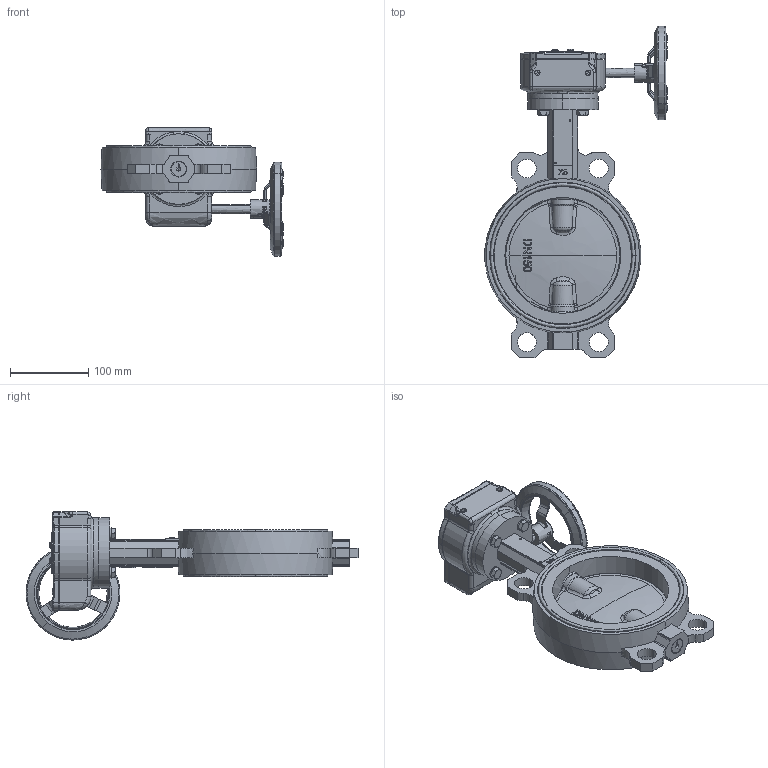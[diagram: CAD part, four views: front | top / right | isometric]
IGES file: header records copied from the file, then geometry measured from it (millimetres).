
Start section: SolidWorks IGES file using NURBS representation for surfaces
Global section: file name: H:\BE BIBLIOTHEQUE 3D\Projet_Biblio3D_2016\FSK\VPI\VPI-02\VPI-08 DN150.Igs; native system: SolidWorks 2014; preprocessor: SolidWorks 2014; author: a.cartier; date: 160929.160100; units: millimetre
Bounding box: 232.48 x 423.99 x 163.75 mm (x, y, z)
Volume: 1713046.7 mm3; surface area: 396646.8 mm2
Topology: 32 solids, 34 shells, 2678 faces, 6966 edges, 4369 vertices
Faces by surface type: bspline 2678
